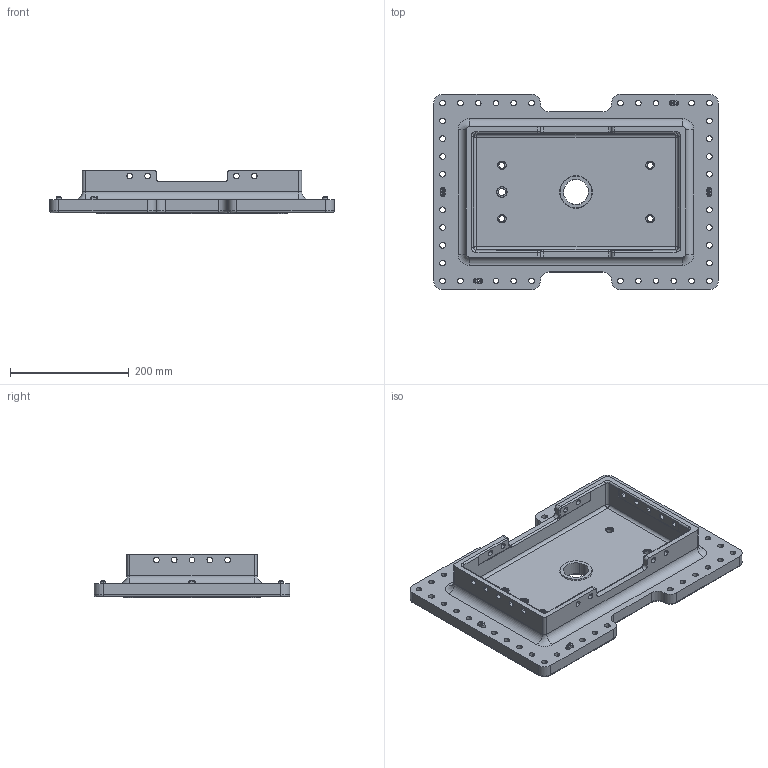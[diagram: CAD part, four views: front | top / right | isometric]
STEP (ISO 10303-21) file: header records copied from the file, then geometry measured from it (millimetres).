
FILE_DESCRIPTION(('STEP AP214'),'1');
FILE_NAME('EGT013_1705070_H-RAHMEN_300X450_SW80.CATPart.stp','2015-09-14T13:04:13',('3D-Tool'),(' '),'Spatial InterOp 3D',' ',' ');
FILE_SCHEMA(('automotive_design'));
Length unit declared in the file: millimetre
Products named in the file (12): EGT013_1705070_H-RAHMEN_300X450_SW80|EGT013 H- Grundrahmen 300x450 SW80|Bohrbearbeitung; EGT013_1705070_H-RAHMEN_300X450_SW80|Bohrbuchse_DIN179_A12x20|EdgeFillet.20; EGT013_1705070_H-RAHMEN_300X450_SW80|Bohrbuchse_DIN172_A42x25|EdgeFillet.19; 1; 2; 3; 4; 5; 6; 7; 8; 9
Bounding box: 480 x 330 x 74 mm (x, y, z)
Volume: 3924892 mm3; surface area: 494335.6 mm2
Topology: 11 solids, 11 shells, 780 faces, 2032 edges, 1317 vertices
Faces by surface type: cylinder 564, plane 132, cone 40, torus 28, bspline 12, sphere 4
Entity records: 32432 total; most frequent: CARTESIAN_POINT 5514, DIRECTION 4718, ORIENTED_EDGE 4056, EDGE_CURVE 2028, AXIS2_PLACEMENT_3D 1981, VERTEX_POINT 1316, CIRCLE 1201, EDGE_LOOP 978
